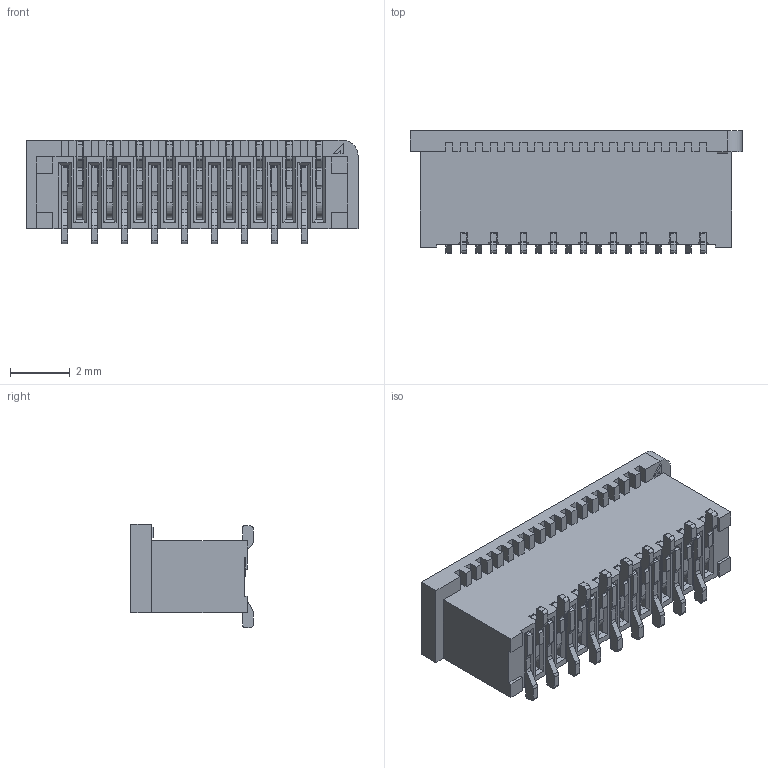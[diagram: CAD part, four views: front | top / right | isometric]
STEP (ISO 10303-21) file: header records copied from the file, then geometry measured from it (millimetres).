
FILE_DESCRIPTION((''),'2;1');
FILE_NAME('S-51602-018XX-XXX','2022-08-19T',('d37621'),(''),'CREO PARAMETRIC BY PTC INC, 2014500','CREO PARAMETRIC BY PTC INC, 2014500','');
FILE_SCHEMA(('CONFIG_CONTROL_DESIGN'));
Length unit declared in the file: millimetre
Products named in the file (1): S-51602-018XX-XXX
Bounding box: 11.1 x 4.1 x 3.45 mm (x, y, z)
Volume: 88.9 mm3; surface area: 261.5 mm2
Topology: 1 solids, 1 shells, 957 faces, 2723 edges, 1797 vertices
Faces by surface type: plane 695, cylinder 226, cone 36
Entity records: 30804 total; most frequent: CARTESIAN_POINT 5526, ORIENTED_EDGE 5302, DIRECTION 5125, EDGE_CURVE 2651, VECTOR 2181, LINE 2181, VERTEX_POINT 1725, AXIS2_PLACEMENT_3D 1472
